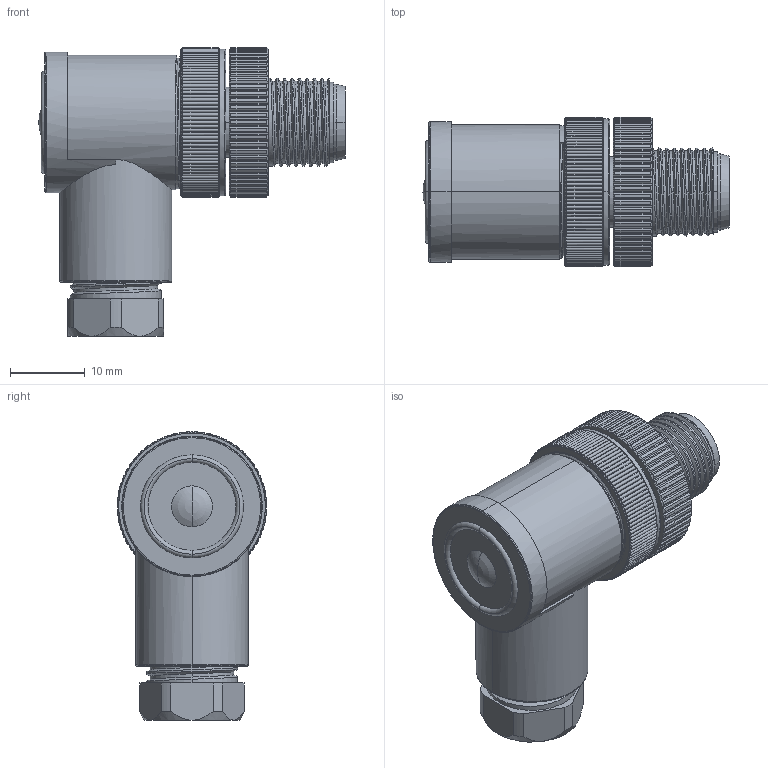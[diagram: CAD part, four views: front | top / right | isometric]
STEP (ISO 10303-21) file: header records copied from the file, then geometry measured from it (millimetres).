
FILE_DESCRIPTION((''),'2;1');
FILE_NAME('XC-PG7-LM','2025-06-20T15:49:15',('lyj'),(''),'CREO PARAMETRIC BY PTC INC, 2019010','CREO PARAMETRIC BY PTC INC, 2019010','');
FILE_SCHEMA(('CONFIG_CONTROL_DESIGN'));
Length unit declared in the file: millimetre
Products named in the file (1): XC-PG7-LM
Bounding box: 41 x 20 x 38.64 mm (x, y, z)
Volume: 7827.3 mm3; surface area: 11693.6 mm2
Topology: 2 solids, 11 shells, 1378 faces, 3666 edges, 2343 vertices
Faces by surface type: cylinder 574, cone 391, plane 316, bspline 41, extrusion 28, torus 18, sphere 10
Entity records: 77965 total; most frequent: CARTESIAN_POINT 45336, ORIENTED_EDGE 7312, DIRECTION 6202, EDGE_CURVE 3656, AXIS2_PLACEMENT_3D 2490, VERTEX_POINT 2343, EDGE_LOOP 1449, FACE_OUTER_BOUND 1378
